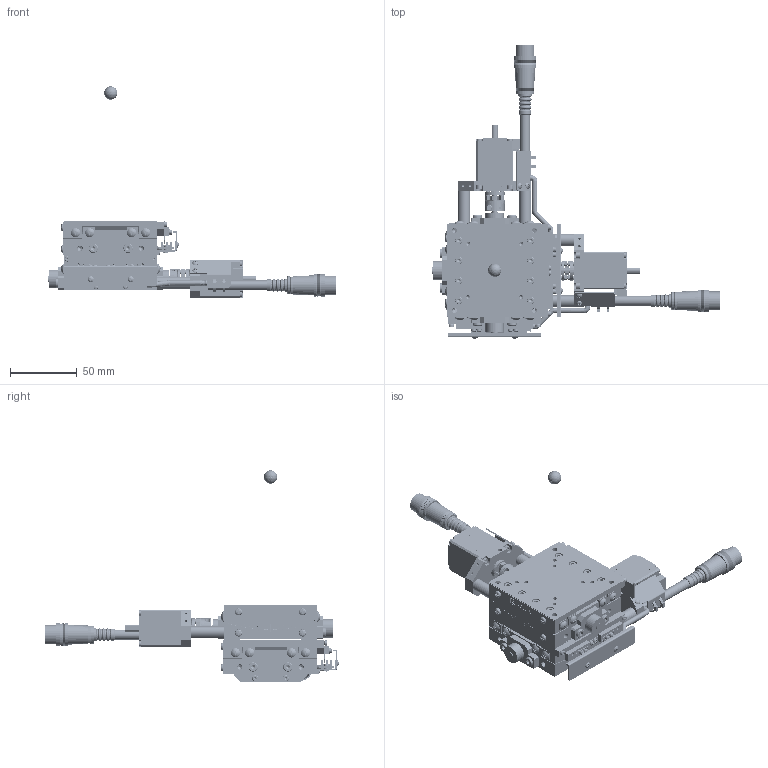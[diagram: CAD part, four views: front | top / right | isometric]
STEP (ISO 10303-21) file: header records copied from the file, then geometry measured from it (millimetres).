
FILE_DESCRIPTION( (''), '2;1');
FILE_NAME ('SA07A-R2L01-RRR.stp','2022-01-24T14:27:08',(''),(''),'spGate 17.5.5','','');
FILE_SCHEMA (('AUTOMOTIVE_DESIGN'));
Length unit declared in the file: millimetre
Products named in the file (13): Assembly; SA07A-R2L01-RRR-prt0; SA07A-R2L01-RRR-prt1; SA07A-R2L01-RRR-prt2; SA07A-R2L01-RRR-prt3; SA07A-R2L01-RRR-prt4; SA07A-R2L01-RRR-prt5; SA07A-R2L01-RRR-prt6; SA07A-R2L01-RRR-prt7; SA07A-R2L01-RRR-prt8; SA07A-R2L01-RRR-prt9; SA07A-R2L01-RRR-prt10; SA07A-R2L01-RRR-prt11
Assembly tree (12 placements, depth 2):
  Assembly
    SA07A-R2L01-RRR-prt0
    SA07A-R2L01-RRR-prt1
    SA07A-R2L01-RRR-prt2
    SA07A-R2L01-RRR-prt3
    SA07A-R2L01-RRR-prt4
    SA07A-R2L01-RRR-prt5
    SA07A-R2L01-RRR-prt6
    SA07A-R2L01-RRR-prt7
    SA07A-R2L01-RRR-prt8
    SA07A-R2L01-RRR-prt9
    SA07A-R2L01-RRR-prt10
    SA07A-R2L01-RRR-prt11
Bounding box: 216 x 220.18 x 158.5 mm (x, y, z)
Volume: 366399.8 mm3; surface area: 128412.1 mm2
Topology: 12 solids, 20 shells, 5901 faces, 15038 edges, 9423 vertices
Faces by surface type: plane 3631, cylinder 1404, bspline 772, sphere 94
Entity records: 301817 total; most frequent: CARTESIAN_POINT 43377, ORIENTED_EDGE 29682, DIRECTION 27966, COLOUR_RGB 20750, PRESENTATION_STYLE_ASSIGNMENT 20750, STYLED_ITEM 20750, EDGE_CURVE 14841, DRAUGHTING_PRE_DEFINED_CURVE_FONT 14841
